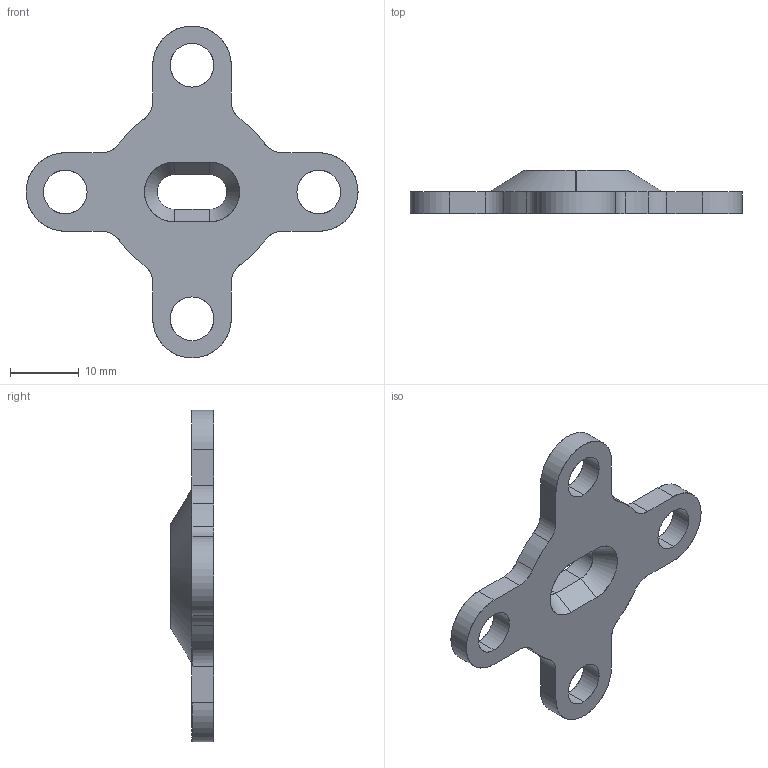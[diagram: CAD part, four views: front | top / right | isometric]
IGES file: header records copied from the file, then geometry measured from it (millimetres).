
Start section: SolidWorks IGES file using analytic representation for surfaces
Global section: file name: C:\Users\Mark McJunkin\Desktop\To _Stephen_Tech\IR_Node_Disk.IGS; native system: SolidWorks 2013; preprocessor: SolidWorks 2013; author: Mark McJunkin; date: 161025.155222; units: inch
Bounding box: 48.36 x 6.35 x 48.36 mm (x, y, z)
Surface area: 2608.3 mm2 (no closed solid volume)
Topology: 0 solids, 0 shells, 49 faces, 808 edges, 808 vertices
Faces by surface type: revolution 31, bspline 18
